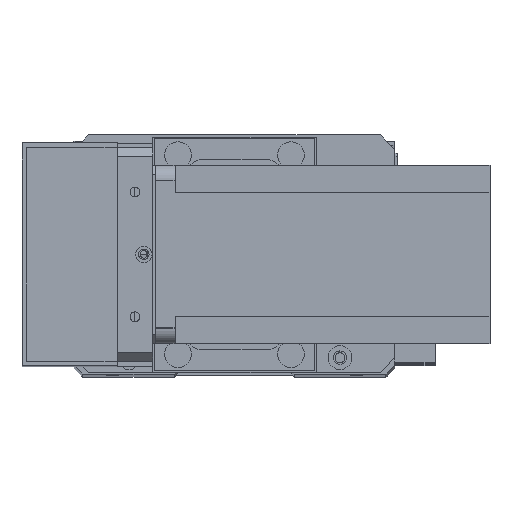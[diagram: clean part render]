
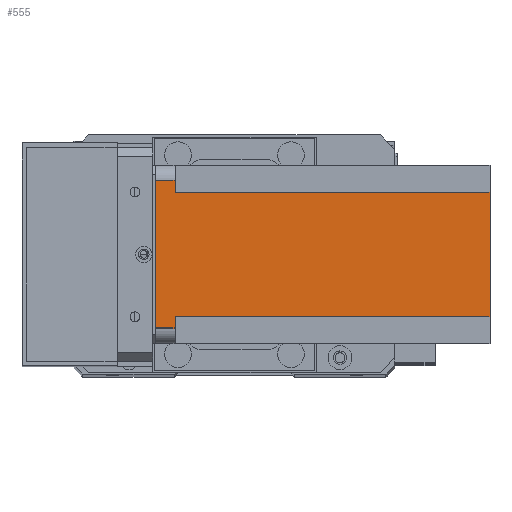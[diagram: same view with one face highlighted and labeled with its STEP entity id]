
A CAD part, top view. The second image highlights one B-rep face of the part: STEP entity #555.
In plain terms, the highlighted planar face has unit normal (0, 0, 1) as drawn and (1, 0, 0) by its records, which use the part's own axes.
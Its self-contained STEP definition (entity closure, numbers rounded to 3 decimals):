
#332 = CARTESIAN_POINT ( 'NONE',  ( 60., 5., -112.5 ) ) ;
#555 = ADVANCED_FACE ( 'NONE', ( #28113 ), #1586, .T. ) ;
#1247 = DIRECTION ( 'NONE',  ( 0., 1., 0. ) ) ;
#1553 = CARTESIAN_POINT ( 'NONE',  ( 60., 60., -6.5 ) ) ;
#1586 = PLANE ( 'NONE',  #20870 ) ;
#1756 = CARTESIAN_POINT ( 'NONE',  ( 60., 5., 0. ) ) ;
#1843 = VECTOR ( 'NONE', #14025, 1000. ) ;
#1983 = CARTESIAN_POINT ( 'NONE',  ( 60., 0., -112.5 ) ) ;
#2300 = DIRECTION ( 'NONE',  ( 0., 0., 1. ) ) ;
#2372 = EDGE_LOOP ( 'NONE', ( #25258, #26281, #24854, #6192, #18476, #13611, #4242, #28890 ) ) ;
#2430 = CARTESIAN_POINT ( 'NONE',  ( 60., 5., -6.5 ) ) ;
#3987 = VECTOR ( 'NONE', #8573, 1000. ) ;
#4242 = ORIENTED_EDGE ( 'NONE', *, *, #26898, .T. ) ;
#5456 = DIRECTION ( 'NONE',  ( 1., 0., 0. ) ) ;
#6192 = ORIENTED_EDGE ( 'NONE', *, *, #13718, .T. ) ;
#6503 = CARTESIAN_POINT ( 'NONE',  ( 60., 51., -112.5 ) ) ;
#7936 = LINE ( 'NONE', #332, #1843 ) ;
#7964 = LINE ( 'NONE', #6503, #25388 ) ;
#8573 = DIRECTION ( 'NONE',  ( 0., -1., 0. ) ) ;
#9375 = VERTEX_POINT ( 'NONE', #26908 ) ;
#9410 = CARTESIAN_POINT ( 'NONE',  ( 60., 51., -112.5 ) ) ;
#10080 = LINE ( 'NONE', #1553, #3987 ) ;
#10919 = EDGE_CURVE ( 'NONE', #22550, #24091, #13062, .T. ) ;
#11680 = CARTESIAN_POINT ( 'NONE',  ( 60., 55., -112.5 ) ) ;
#12321 = VERTEX_POINT ( 'NONE', #22150 ) ;
#12524 = EDGE_CURVE ( 'NONE', #9375, #24091, #24644, .T. ) ;
#12590 = VECTOR ( 'NONE', #13983, 1000. ) ;
#12883 = EDGE_CURVE ( 'NONE', #9375, #16521, #10080, .T. ) ;
#13062 = LINE ( 'NONE', #28514, #24370 ) ;
#13608 = CARTESIAN_POINT ( 'NONE',  ( 60., 9., -112.5 ) ) ;
#13611 = ORIENTED_EDGE ( 'NONE', *, *, #16068, .F. ) ;
#13718 = EDGE_CURVE ( 'NONE', #22550, #25114, #7936, .T. ) ;
#13983 = DIRECTION ( 'NONE',  ( 0., 0., 1. ) ) ;
#14025 = DIRECTION ( 'NONE',  ( 0., 0., -1. ) ) ;
#16068 = EDGE_CURVE ( 'NONE', #12321, #28695, #26396, .T. ) ;
#16521 = VERTEX_POINT ( 'NONE', #28938 ) ;
#17129 = CARTESIAN_POINT ( 'NONE',  ( 60., 9., -6.5 ) ) ;
#17813 = VECTOR ( 'NONE', #25022, 1000. ) ;
#17951 = CARTESIAN_POINT ( 'NONE',  ( 60., 0., -6.5 ) ) ;
#18023 = VECTOR ( 'NONE', #24688, 1000. ) ;
#18476 = ORIENTED_EDGE ( 'NONE', *, *, #19402, .F. ) ;
#18517 = LINE ( 'NONE', #22694, #17813 ) ;
#19402 = EDGE_CURVE ( 'NONE', #28695, #25114, #24758, .T. ) ;
#20330 = VECTOR ( 'NONE', #2300, 1000. ) ;
#20870 = AXIS2_PLACEMENT_3D ( 'NONE', #1983, #5456, #22481 ) ;
#21942 = EDGE_CURVE ( 'NONE', #16521, #25895, #7964, .T. ) ;
#22150 = CARTESIAN_POINT ( 'NONE',  ( 60., 9., -112.5 ) ) ;
#22254 = DIRECTION ( 'NONE',  ( 0., 0., -1. ) ) ;
#22481 = DIRECTION ( 'NONE',  ( 0., 1., 0. ) ) ;
#22550 = VERTEX_POINT ( 'NONE', #1756 ) ;
#22694 = CARTESIAN_POINT ( 'NONE',  ( 60., 0., -112.5 ) ) ;
#24091 = VERTEX_POINT ( 'NONE', #28256 ) ;
#24370 = VECTOR ( 'NONE', #1247, 1000. ) ;
#24644 = LINE ( 'NONE', #11680, #12590 ) ;
#24688 = DIRECTION ( 'NONE',  ( 0., -1., 0. ) ) ;
#24758 = LINE ( 'NONE', #17951, #18023 ) ;
#24854 = ORIENTED_EDGE ( 'NONE', *, *, #10919, .F. ) ;
#25022 = DIRECTION ( 'NONE',  ( 0., 1., 0. ) ) ;
#25114 = VERTEX_POINT ( 'NONE', #2430 ) ;
#25258 = ORIENTED_EDGE ( 'NONE', *, *, #12883, .F. ) ;
#25388 = VECTOR ( 'NONE', #22254, 1000. ) ;
#25895 = VERTEX_POINT ( 'NONE', #9410 ) ;
#26281 = ORIENTED_EDGE ( 'NONE', *, *, #12524, .T. ) ;
#26396 = LINE ( 'NONE', #13608, #20330 ) ;
#26898 = EDGE_CURVE ( 'NONE', #12321, #25895, #18517, .T. ) ;
#26908 = CARTESIAN_POINT ( 'NONE',  ( 60., 55., -6.5 ) ) ;
#28113 = FACE_OUTER_BOUND ( 'NONE', #2372, .T. ) ;
#28256 = CARTESIAN_POINT ( 'NONE',  ( 60., 55., 0. ) ) ;
#28514 = CARTESIAN_POINT ( 'NONE',  ( 60., 0., 0. ) ) ;
#28695 = VERTEX_POINT ( 'NONE', #17129 ) ;
#28890 = ORIENTED_EDGE ( 'NONE', *, *, #21942, .F. ) ;
#28938 = CARTESIAN_POINT ( 'NONE',  ( 60., 51., -6.5 ) ) ;
